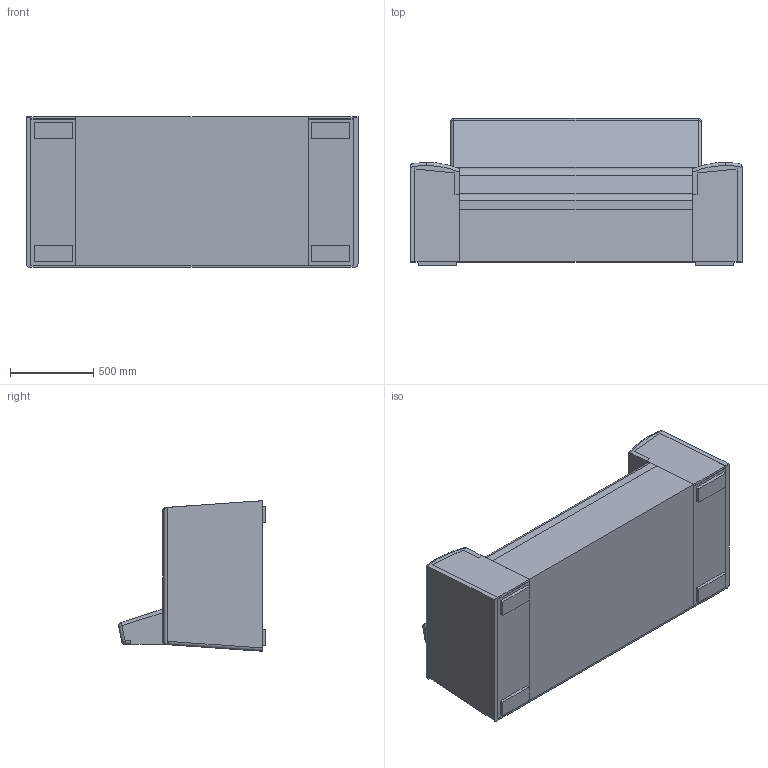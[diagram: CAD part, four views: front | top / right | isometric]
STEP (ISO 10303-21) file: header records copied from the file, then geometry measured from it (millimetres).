
FILE_DESCRIPTION (( 'STEP AP203' ), '1' );
FILE_NAME ('Rubus Tripple Seat Anti-stash.STEP', '2022-07-25T07:16:43', ( '' ), ( '' ), 'SwSTEP 2.0', 'SolidWorks 2022', '' );
FILE_SCHEMA (( 'CONFIG_CONTROL_DESIGN' ));
Length unit declared in the file: millimetre
Products named in the file (1): Rubus Tripple Seat Anti-stash
Bounding box: 2000 x 885.42 x 906.92 mm (x, y, z)
Volume: 282812432.6 mm3; surface area: 18001177.5 mm2
Topology: 6 solids, 7 shells, 212 faces, 580 edges, 362 vertices
Faces by surface type: plane 164, cylinder 38, bspline 6, sphere 4
Entity records: 7473 total; most frequent: CARTESIAN_POINT 2133, ORIENTED_EDGE 1152, DIRECTION 1020, EDGE_CURVE 576, VECTOR 462, LINE 462, VERTEX_POINT 362, AXIS2_PLACEMENT_3D 279
